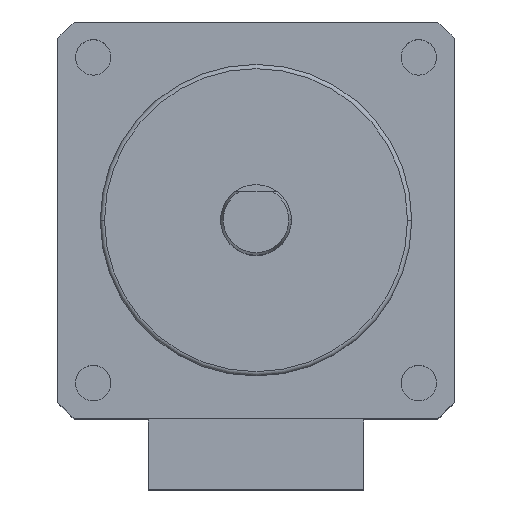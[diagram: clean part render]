
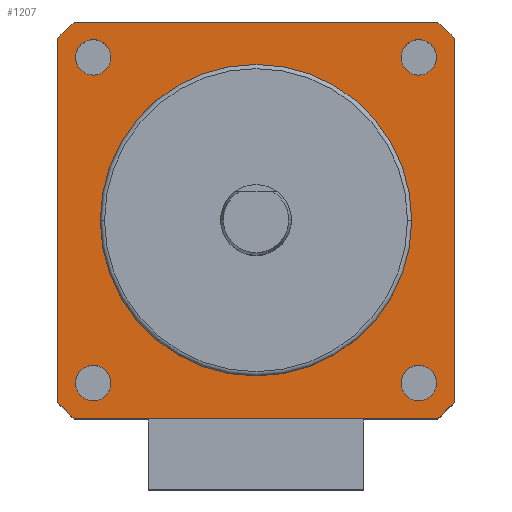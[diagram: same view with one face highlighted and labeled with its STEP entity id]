
A CAD part, top view. The second image highlights one B-rep face of the part: STEP entity #1207.
In plain terms, the highlighted planar face has unit normal (0, 0, 1).
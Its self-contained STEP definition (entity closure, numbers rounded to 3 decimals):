
#9 = CARTESIAN_POINT ( 'NONE',  ( 12.845, 14., 0. ) ) ;
#22 = CARTESIAN_POINT ( 'NONE',  ( -14., 12.845, 0. ) ) ;
#29 = AXIS2_PLACEMENT_3D ( 'NONE', #472, #299, #132 ) ;
#36 = ORIENTED_EDGE ( 'NONE', *, *, #887, .F. ) ;
#39 = CARTESIAN_POINT ( 'NONE',  ( -14., -12.845, 0. ) ) ;
#85 = FACE_BOUND ( 'NONE', #738, .T. ) ;
#96 = AXIS2_PLACEMENT_3D ( 'NONE', #873, #760, #853 ) ;
#107 = DIRECTION ( 'NONE',  ( 1., 0., 0. ) ) ;
#109 = VERTEX_POINT ( 'NONE', #640 ) ;
#114 = DIRECTION ( 'NONE',  ( 0., 0., -1. ) ) ;
#119 = DIRECTION ( 'NONE',  ( 0., 1., 0. ) ) ;
#121 = DIRECTION ( 'NONE',  ( -1., 0., 0. ) ) ;
#132 = DIRECTION ( 'NONE',  ( 1., 0., 0. ) ) ;
#142 = AXIS2_PLACEMENT_3D ( 'NONE', #1055, #885, #735 ) ;
#151 = ORIENTED_EDGE ( 'NONE', *, *, #677, .F. ) ;
#168 = VERTEX_POINT ( 'NONE', #9 ) ;
#169 = FACE_BOUND ( 'NONE', #1284, .T. ) ;
#192 = CIRCLE ( 'NONE', #96, 1.25 ) ;
#198 = ORIENTED_EDGE ( 'NONE', *, *, #800, .F. ) ;
#215 = ORIENTED_EDGE ( 'NONE', *, *, #1336, .F. ) ;
#222 = CIRCLE ( 'NONE', #936, 1.25 ) ;
#245 = FACE_OUTER_BOUND ( 'NONE', #373, .T. ) ;
#246 = CARTESIAN_POINT ( 'NONE',  ( 10.25, -11.5, 0. ) ) ;
#254 = AXIS2_PLACEMENT_3D ( 'NONE', #442, #270, #107 ) ;
#270 = DIRECTION ( 'NONE',  ( 0., 0., 1. ) ) ;
#273 = ORIENTED_EDGE ( 'NONE', *, *, #919, .F. ) ;
#287 = CARTESIAN_POINT ( 'NONE',  ( -14., 0., 0. ) ) ;
#295 = CIRCLE ( 'NONE', #965, 19. ) ;
#297 = EDGE_CURVE ( 'NONE', #1003, #1280, #553, .T. ) ;
#299 = DIRECTION ( 'NONE',  ( 0., 0., 1. ) ) ;
#308 = CARTESIAN_POINT ( 'NONE',  ( -12.75, 11.5, 0. ) ) ;
#313 = CIRCLE ( 'NONE', #696, 19. ) ;
#323 = CIRCLE ( 'NONE', #1216, 1.25 ) ;
#348 = DIRECTION ( 'NONE',  ( 0., 1., 0. ) ) ;
#358 = ORIENTED_EDGE ( 'NONE', *, *, #573, .F. ) ;
#371 = DIRECTION ( 'NONE',  ( 1., 0., 0. ) ) ;
#373 = EDGE_LOOP ( 'NONE', ( #1325, #1107, #501, #994, #1267, #706, #273, #36 ) ) ;
#375 = VERTEX_POINT ( 'NONE', #1288 ) ;
#379 = VECTOR ( 'NONE', #655, 1000. ) ;
#384 = VERTEX_POINT ( 'NONE', #1155 ) ;
#394 = VERTEX_POINT ( 'NONE', #1014 ) ;
#423 = CIRCLE ( 'NONE', #453, 19. ) ;
#434 = VECTOR ( 'NONE', #348, 1000. ) ;
#442 = CARTESIAN_POINT ( 'NONE',  ( -11.5, 11.5, 0. ) ) ;
#453 = AXIS2_PLACEMENT_3D ( 'NONE', #1196, #1062, #893 ) ;
#461 = CIRCLE ( 'NONE', #29, 1.25 ) ;
#463 = LINE ( 'NONE', #287, #476 ) ;
#472 = CARTESIAN_POINT ( 'NONE',  ( 11.5, 11.5, 0. ) ) ;
#476 = VECTOR ( 'NONE', #119, 1000. ) ;
#480 = CIRCLE ( 'NONE', #665, 1.25 ) ;
#484 = CIRCLE ( 'NONE', #1097, 19. ) ;
#501 = ORIENTED_EDGE ( 'NONE', *, *, #1090, .T. ) ;
#529 = CARTESIAN_POINT ( 'NONE',  ( 0., 0., 0. ) ) ;
#544 = CIRCLE ( 'NONE', #1045, 1.25 ) ;
#546 = DIRECTION ( 'NONE',  ( 0., 0., 1. ) ) ;
#548 = CIRCLE ( 'NONE', #254, 1.25 ) ;
#549 = VERTEX_POINT ( 'NONE', #308 ) ;
#553 = CIRCLE ( 'NONE', #142, 1.25 ) ;
#573 = EDGE_CURVE ( 'NONE', #375, #549, #548, .T. ) ;
#588 = ORIENTED_EDGE ( 'NONE', *, *, #618, .F. ) ;
#614 = DIRECTION ( 'NONE',  ( -1., 0., 0. ) ) ;
#618 = EDGE_CURVE ( 'NONE', #549, #375, #544, .T. ) ;
#640 = CARTESIAN_POINT ( 'NONE',  ( -12.845, -14., 0. ) ) ;
#649 = EDGE_CURVE ( 'NONE', #109, #916, #484, .T. ) ;
#655 = DIRECTION ( 'NONE',  ( 1., 0., 0. ) ) ;
#657 = DIRECTION ( 'NONE',  ( 1., 0., 0. ) ) ;
#665 = AXIS2_PLACEMENT_3D ( 'NONE', #714, #546, #371 ) ;
#667 = CARTESIAN_POINT ( 'NONE',  ( -10.25, -11.5, 0. ) ) ;
#677 = EDGE_CURVE ( 'NONE', #726, #384, #480, .T. ) ;
#680 = DIRECTION ( 'NONE',  ( -1., 0., 0. ) ) ;
#683 = CARTESIAN_POINT ( 'NONE',  ( 0., 0., 0. ) ) ;
#696 = AXIS2_PLACEMENT_3D ( 'NONE', #998, #835, #680 ) ;
#706 = ORIENTED_EDGE ( 'NONE', *, *, #1056, .F. ) ;
#707 = EDGE_CURVE ( 'NONE', #916, #1418, #463, .T. ) ;
#714 = CARTESIAN_POINT ( 'NONE',  ( 11.5, -11.5, 0. ) ) ;
#717 = VERTEX_POINT ( 'NONE', #912 ) ;
#726 = VERTEX_POINT ( 'NONE', #246 ) ;
#735 = DIRECTION ( 'NONE',  ( 1., 0., 0. ) ) ;
#738 = EDGE_LOOP ( 'NONE', ( #198, #215 ) ) ;
#744 = DIRECTION ( 'NONE',  ( 0., 0., -1. ) ) ;
#760 = DIRECTION ( 'NONE',  ( 0., 0., 1. ) ) ;
#766 = VECTOR ( 'NONE', #1184, 1000. ) ;
#778 = VERTEX_POINT ( 'NONE', #1000 ) ;
#779 = EDGE_LOOP ( 'NONE', ( #1235, #151 ) ) ;
#783 = DIRECTION ( 'NONE',  ( 1., 0., 0. ) ) ;
#786 = CARTESIAN_POINT ( 'NONE',  ( -12.845, 14., 0. ) ) ;
#797 = DIRECTION ( 'NONE',  ( 0., 0., 1. ) ) ;
#800 = EDGE_CURVE ( 'NONE', #717, #394, #461, .T. ) ;
#815 = CARTESIAN_POINT ( 'NONE',  ( 0., 14., 0. ) ) ;
#835 = DIRECTION ( 'NONE',  ( 0., 0., -1. ) ) ;
#853 = DIRECTION ( 'NONE',  ( 1., 0., 0. ) ) ;
#873 = CARTESIAN_POINT ( 'NONE',  ( 11.5, 11.5, 0. ) ) ;
#885 = DIRECTION ( 'NONE',  ( 0., 0., 1. ) ) ;
#887 = EDGE_CURVE ( 'NONE', #1418, #1436, #423, .T. ) ;
#893 = DIRECTION ( 'NONE',  ( -1., 0., 0. ) ) ;
#896 = PLANE ( 'NONE',  #928 ) ;
#903 = CARTESIAN_POINT ( 'NONE',  ( 12.845, -14., 0. ) ) ;
#912 = CARTESIAN_POINT ( 'NONE',  ( 12.75, 11.5, 0. ) ) ;
#916 = VERTEX_POINT ( 'NONE', #39 ) ;
#919 = EDGE_CURVE ( 'NONE', #1436, #168, #982, .T. ) ;
#928 = AXIS2_PLACEMENT_3D ( 'NONE', #683, #114, #121 ) ;
#936 = AXIS2_PLACEMENT_3D ( 'NONE', #1025, #797, #657 ) ;
#946 = DIRECTION ( 'NONE',  ( 0., 0., 1. ) ) ;
#963 = CARTESIAN_POINT ( 'NONE',  ( 14., 0., 0. ) ) ;
#965 = AXIS2_PLACEMENT_3D ( 'NONE', #529, #744, #614 ) ;
#979 = FACE_BOUND ( 'NONE', #779, .T. ) ;
#982 = LINE ( 'NONE', #815, #379 ) ;
#990 = FACE_BOUND ( 'NONE', #1320, .T. ) ;
#994 = ORIENTED_EDGE ( 'NONE', *, *, #1192, .F. ) ;
#998 = CARTESIAN_POINT ( 'NONE',  ( 0., 0., 0. ) ) ;
#1000 = CARTESIAN_POINT ( 'NONE',  ( 14., 12.845, 0. ) ) ;
#1003 = VERTEX_POINT ( 'NONE', #667 ) ;
#1014 = CARTESIAN_POINT ( 'NONE',  ( 10.25, 11.5, 0. ) ) ;
#1018 = ORIENTED_EDGE ( 'NONE', *, *, #1201, .F. ) ;
#1025 = CARTESIAN_POINT ( 'NONE',  ( -11.5, -11.5, 0. ) ) ;
#1027 = EDGE_CURVE ( 'NONE', #384, #726, #323, .T. ) ;
#1045 = AXIS2_PLACEMENT_3D ( 'NONE', #1354, #1232, #1106 ) ;
#1055 = CARTESIAN_POINT ( 'NONE',  ( -11.5, -11.5, 0. ) ) ;
#1056 = EDGE_CURVE ( 'NONE', #168, #778, #313, .T. ) ;
#1062 = DIRECTION ( 'NONE',  ( 0., 0., -1. ) ) ;
#1077 = LINE ( 'NONE', #963, #434 ) ;
#1090 = EDGE_CURVE ( 'NONE', #109, #1190, #1422, .T. ) ;
#1097 = AXIS2_PLACEMENT_3D ( 'NONE', #1434, #1323, #1204 ) ;
#1106 = DIRECTION ( 'NONE',  ( 1., 0., 0. ) ) ;
#1107 = ORIENTED_EDGE ( 'NONE', *, *, #649, .F. ) ;
#1112 = CARTESIAN_POINT ( 'NONE',  ( 11.5, -11.5, 0. ) ) ;
#1155 = CARTESIAN_POINT ( 'NONE',  ( 12.75, -11.5, 0. ) ) ;
#1184 = DIRECTION ( 'NONE',  ( 1., 0., 0. ) ) ;
#1190 = VERTEX_POINT ( 'NONE', #903 ) ;
#1192 = EDGE_CURVE ( 'NONE', #1408, #1190, #295, .T. ) ;
#1196 = CARTESIAN_POINT ( 'NONE',  ( 0., 0., 0. ) ) ;
#1201 = EDGE_CURVE ( 'NONE', #1280, #1003, #222, .T. ) ;
#1204 = DIRECTION ( 'NONE',  ( -1., 0., 0. ) ) ;
#1207 = ADVANCED_FACE ( 'NONE', ( #979, #990, #85, #169, #245 ), #896, .F. ) ;
#1216 = AXIS2_PLACEMENT_3D ( 'NONE', #1112, #946, #783 ) ;
#1232 = DIRECTION ( 'NONE',  ( 0., 0., 1. ) ) ;
#1235 = ORIENTED_EDGE ( 'NONE', *, *, #1027, .F. ) ;
#1267 = ORIENTED_EDGE ( 'NONE', *, *, #1331, .T. ) ;
#1280 = VERTEX_POINT ( 'NONE', #1316 ) ;
#1284 = EDGE_LOOP ( 'NONE', ( #358, #588 ) ) ;
#1288 = CARTESIAN_POINT ( 'NONE',  ( -10.25, 11.5, 0. ) ) ;
#1310 = CARTESIAN_POINT ( 'NONE',  ( 0., -14., 0. ) ) ;
#1316 = CARTESIAN_POINT ( 'NONE',  ( -12.75, -11.5, 0. ) ) ;
#1320 = EDGE_LOOP ( 'NONE', ( #1326, #1018 ) ) ;
#1323 = DIRECTION ( 'NONE',  ( 0., 0., -1. ) ) ;
#1325 = ORIENTED_EDGE ( 'NONE', *, *, #707, .F. ) ;
#1326 = ORIENTED_EDGE ( 'NONE', *, *, #297, .F. ) ;
#1331 = EDGE_CURVE ( 'NONE', #1408, #778, #1077, .T. ) ;
#1336 = EDGE_CURVE ( 'NONE', #394, #717, #192, .T. ) ;
#1354 = CARTESIAN_POINT ( 'NONE',  ( -11.5, 11.5, 0. ) ) ;
#1389 = CARTESIAN_POINT ( 'NONE',  ( 14., -12.845, 0. ) ) ;
#1408 = VERTEX_POINT ( 'NONE', #1389 ) ;
#1418 = VERTEX_POINT ( 'NONE', #22 ) ;
#1422 = LINE ( 'NONE', #1310, #766 ) ;
#1434 = CARTESIAN_POINT ( 'NONE',  ( 0., 0., 0. ) ) ;
#1436 = VERTEX_POINT ( 'NONE', #786 ) ;
